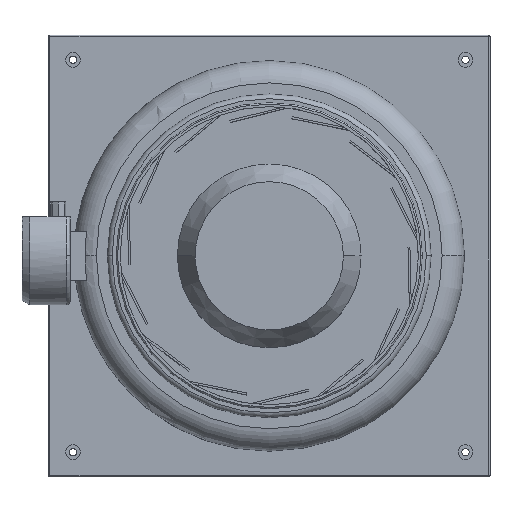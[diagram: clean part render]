
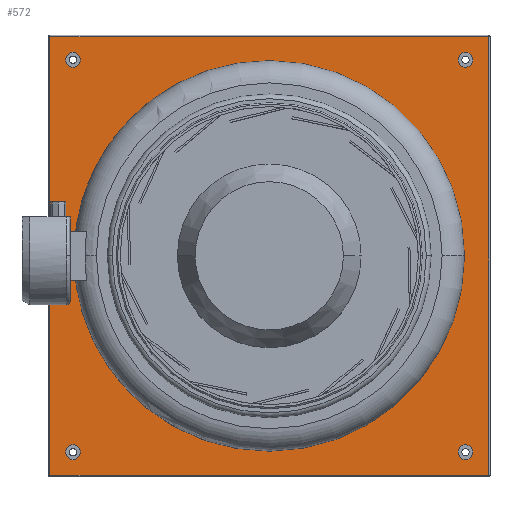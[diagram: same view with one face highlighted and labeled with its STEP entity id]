
A CAD part, top view. The second image highlights one B-rep face of the part: STEP entity #572.
In plain terms, the highlighted planar face has unit normal (0, 0, 1).
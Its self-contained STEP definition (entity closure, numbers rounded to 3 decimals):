
#572=ADVANCED_FACE('',(#1164,#1165,#1166,#1167,#1168,#1169),#1170,.T.);
#1164=FACE_BOUND('',#1757,.T.);
#1165=FACE_BOUND('',#1758,.T.);
#1166=FACE_BOUND('',#1759,.T.);
#1167=FACE_BOUND('',#1760,.T.);
#1168=FACE_BOUND('',#1761,.T.);
#1169=FACE_OUTER_BOUND('',#1762,.T.);
#1170=PLANE('',#1763);
#1757=EDGE_LOOP('',(#3537,#3538));
#1758=EDGE_LOOP('',(#3539,#3540));
#1759=EDGE_LOOP('',(#3541,#3542));
#1760=EDGE_LOOP('',(#3543,#3544));
#1761=EDGE_LOOP('',(#3545,#3546));
#1762=EDGE_LOOP('',(#3547,#3548,#3549,#3550));
#1763=AXIS2_PLACEMENT_3D('',#3551,#3552,#3553);
#3537=ORIENTED_EDGE('',*,*,#3724,.T.);
#3538=ORIENTED_EDGE('',*,*,#3819,.T.);
#3539=ORIENTED_EDGE('',*,*,#3607,.T.);
#3540=ORIENTED_EDGE('',*,*,#4187,.T.);
#3541=ORIENTED_EDGE('',*,*,#3597,.T.);
#3542=ORIENTED_EDGE('',*,*,#4194,.T.);
#3543=ORIENTED_EDGE('',*,*,#3587,.T.);
#3544=ORIENTED_EDGE('',*,*,#4201,.T.);
#3545=ORIENTED_EDGE('',*,*,#3577,.T.);
#3546=ORIENTED_EDGE('',*,*,#4208,.T.);
#3547=ORIENTED_EDGE('',*,*,#4280,.F.);
#3548=ORIENTED_EDGE('',*,*,#4220,.F.);
#3549=ORIENTED_EDGE('',*,*,#4282,.T.);
#3550=ORIENTED_EDGE('',*,*,#4265,.T.);
#3551=CARTESIAN_POINT('',(0.0,0.0,-67.5));
#3552=DIRECTION('',(0.0,-0.0,1.0));
#3553=DIRECTION('',(0.,1.0,0.0));
#3577=EDGE_CURVE('',#4298,#4295,#4299,.T.);
#3587=EDGE_CURVE('',#4316,#4313,#4317,.T.);
#3597=EDGE_CURVE('',#4334,#4331,#4335,.T.);
#3607=EDGE_CURVE('',#4352,#4349,#4353,.T.);
#3724=EDGE_CURVE('',#4569,#4566,#4570,.T.);
#3819=EDGE_CURVE('',#4566,#4569,#4710,.T.);
#4187=EDGE_CURVE('',#4349,#4352,#5225,.T.);
#4194=EDGE_CURVE('',#4331,#4334,#5232,.T.);
#4201=EDGE_CURVE('',#4313,#4316,#5239,.T.);
#4208=EDGE_CURVE('',#4295,#4298,#5246,.T.);
#4220=EDGE_CURVE('',#5250,#5263,#5264,.T.);
#4265=EDGE_CURVE('',#5323,#5282,#5327,.T.);
#4280=EDGE_CURVE('',#5263,#5282,#5342,.T.);
#4282=EDGE_CURVE('',#5250,#5323,#5344,.T.);
#4295=VERTEX_POINT('',#5359);
#4298=VERTEX_POINT('',#5363);
#4299=CIRCLE('',#5364,7.5);
#4313=VERTEX_POINT('',#5381);
#4316=VERTEX_POINT('',#5385);
#4317=CIRCLE('',#5386,7.5);
#4331=VERTEX_POINT('',#5403);
#4334=VERTEX_POINT('',#5407);
#4335=CIRCLE('',#5408,7.5);
#4349=VERTEX_POINT('',#5425);
#4352=VERTEX_POINT('',#5429);
#4353=CIRCLE('',#5430,7.5);
#4566=VERTEX_POINT('',#5756);
#4569=VERTEX_POINT('',#5760);
#4570=CIRCLE('',#5761,199.0);
#4710=CIRCLE('',#6105,199.0);
#5225=CIRCLE('',#6916,7.5);
#5232=CIRCLE('',#6923,7.5);
#5239=CIRCLE('',#6930,7.5);
#5246=CIRCLE('',#6937,7.5);
#5250=VERTEX_POINT('',#6941);
#5263=VERTEX_POINT('',#6956);
#5264=LINE('',#6957,#6958);
#5282=VERTEX_POINT('',#6979);
#5323=VERTEX_POINT('',#7028);
#5327=LINE('',#7032,#7033);
#5342=LINE('',#7055,#7056);
#5344=LINE('',#7058,#7059);
#5359=CARTESIAN_POINT('',(-200.0,207.5,-67.5));
#5363=CARTESIAN_POINT('',(-200.0,192.5,-67.5));
#5364=AXIS2_PLACEMENT_3D('',#7071,#7072,#7073);
#5381=CARTESIAN_POINT('',(-200.0,-192.5,-67.5));
#5385=CARTESIAN_POINT('',(-200.0,-207.5,-67.5));
#5386=AXIS2_PLACEMENT_3D('',#7087,#7088,#7089);
#5403=CARTESIAN_POINT('',(200.0,-192.5,-67.5));
#5407=CARTESIAN_POINT('',(200.0,-207.5,-67.5));
#5408=AXIS2_PLACEMENT_3D('',#7103,#7104,#7105);
#5425=CARTESIAN_POINT('',(200.0,207.5,-67.5));
#5429=CARTESIAN_POINT('',(200.0,192.5,-67.5));
#5430=AXIS2_PLACEMENT_3D('',#7119,#7120,#7121);
#5756=CARTESIAN_POINT('',(0.,199.0,-67.5));
#5760=CARTESIAN_POINT('',(0.,-199.0,-67.5));
#5761=AXIS2_PLACEMENT_3D('',#7332,#7333,#7334);
#6105=AXIS2_PLACEMENT_3D('',#7448,#7449,#7450);
#6916=AXIS2_PLACEMENT_3D('',#7781,#7782,#7783);
#6923=AXIS2_PLACEMENT_3D('',#7793,#7794,#7795);
#6930=AXIS2_PLACEMENT_3D('',#7805,#7806,#7807);
#6937=AXIS2_PLACEMENT_3D('',#7817,#7818,#7819);
#6941=CARTESIAN_POINT('',(223.5,223.5,-67.5));
#6956=CARTESIAN_POINT('',(223.5,-223.5,-67.5));
#6957=CARTESIAN_POINT('',(223.5,0.,-67.5));
#6958=VECTOR('',#7837,1.0);
#6979=CARTESIAN_POINT('',(-223.5,-223.5,-67.5));
#7028=CARTESIAN_POINT('',(-223.5,223.5,-67.5));
#7032=CARTESIAN_POINT('',(-223.5,0.,-67.5));
#7033=VECTOR('',#7909,1.0);
#7055=CARTESIAN_POINT('',(0.,-223.5,-67.5));
#7056=VECTOR('',#7917,1.0);
#7058=CARTESIAN_POINT('',(0.,223.5,-67.5));
#7059=VECTOR('',#7918,1.0);
#7071=CARTESIAN_POINT('',(-200.0,200.0,-67.5));
#7072=DIRECTION('',(0.0,0.0,-1.0));
#7073=DIRECTION('',(0.,1.0,0.0));
#7087=CARTESIAN_POINT('',(-200.0,-200.0,-67.5));
#7088=DIRECTION('',(0.0,0.0,-1.0));
#7089=DIRECTION('',(0.,1.0,0.0));
#7103=CARTESIAN_POINT('',(200.0,-200.0,-67.5));
#7104=DIRECTION('',(0.0,0.0,-1.0));
#7105=DIRECTION('',(0.,1.0,0.0));
#7119=CARTESIAN_POINT('',(200.0,200.0,-67.5));
#7120=DIRECTION('',(0.0,0.0,-1.0));
#7121=DIRECTION('',(0.,1.0,0.0));
#7332=CARTESIAN_POINT('',(0.0,0.0,-67.5));
#7333=DIRECTION('',(0.0,0.0,-1.0));
#7334=DIRECTION('',(0.,1.0,0.0));
#7448=CARTESIAN_POINT('',(0.0,0.0,-67.5));
#7449=DIRECTION('',(0.0,0.0,-1.0));
#7450=DIRECTION('',(0.,1.0,0.0));
#7781=CARTESIAN_POINT('',(200.0,200.0,-67.5));
#7782=DIRECTION('',(0.0,0.0,-1.0));
#7783=DIRECTION('',(0.,1.0,0.0));
#7793=CARTESIAN_POINT('',(200.0,-200.0,-67.5));
#7794=DIRECTION('',(0.0,0.0,-1.0));
#7795=DIRECTION('',(0.,1.0,0.0));
#7805=CARTESIAN_POINT('',(-200.0,-200.0,-67.5));
#7806=DIRECTION('',(0.0,0.0,-1.0));
#7807=DIRECTION('',(0.,1.0,0.0));
#7817=CARTESIAN_POINT('',(-200.0,200.0,-67.5));
#7818=DIRECTION('',(0.0,0.0,-1.0));
#7819=DIRECTION('',(0.,1.0,0.0));
#7837=DIRECTION('',(0.,-1.0,0.));
#7909=DIRECTION('',(0.,-1.0,0.));
#7917=DIRECTION('',(-1.0,0.,0.));
#7918=DIRECTION('',(-1.0,0.,0.));
